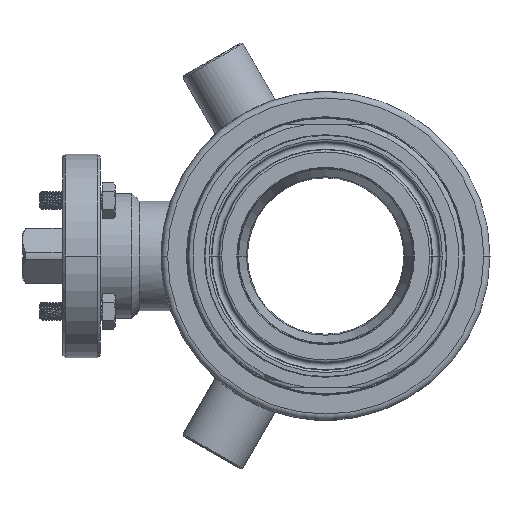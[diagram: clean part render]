
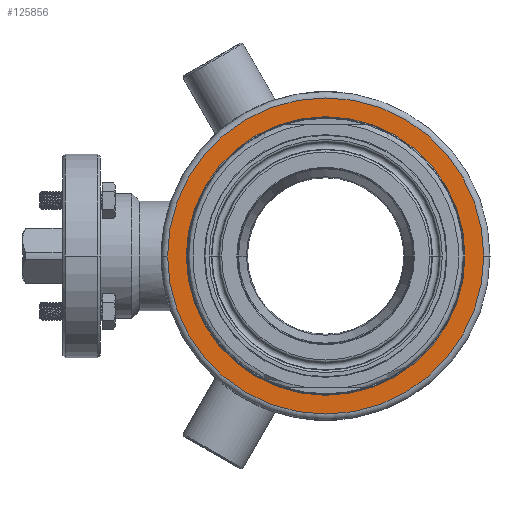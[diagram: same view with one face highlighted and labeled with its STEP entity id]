
A CAD part, left-side view. The second image highlights one B-rep face of the part: STEP entity #125856.
In plain terms, the highlighted planar face has unit normal (-1, 0, 0).
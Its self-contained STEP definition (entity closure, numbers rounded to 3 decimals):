
#56803=CARTESIAN_POINT('',(-32.,0.,0.));
#56804=DIRECTION('',(-1.,0.,0.));
#56805=DIRECTION('',(0.,-1.,0.));
#56806=AXIS2_PLACEMENT_3D('',#56803,#56804,#56805);
#56811=CARTESIAN_POINT('',(-32.,0.,0.));
#56812=DIRECTION('',(-1.,0.,0.));
#56813=DIRECTION('',(0.,1.,0.));
#56814=AXIS2_PLACEMENT_3D('',#56811,#56812,#56813);
#56827=CARTESIAN_POINT('',(-32.,0.,0.));
#56828=DIRECTION('',(-1.,0.,0.));
#56829=DIRECTION('',(0.,0.,1.));
#56830=AXIS2_PLACEMENT_3D('',#56827,#56828,#56829);
#56843=CARTESIAN_POINT('',(-32.,0.,0.));
#56844=DIRECTION('',(-1.,0.,0.));
#56845=DIRECTION('',(0.,0.,-1.));
#56846=AXIS2_PLACEMENT_3D('',#56843,#56844,#56845);
#79877=CARTESIAN_POINT('',(-32.,-50.5,0.));
#79878=CARTESIAN_POINT('',(-32.,50.5,0.));
#79879=VERTEX_POINT('',#79877);
#79880=VERTEX_POINT('',#79878);
#80306=CARTESIAN_POINT('',(-32.,0.,44.5));
#80307=CARTESIAN_POINT('',(-32.,0.,-44.5));
#80308=VERTEX_POINT('',#80306);
#80309=VERTEX_POINT('',#80307);
#125840=CARTESIAN_POINT('',(-32.,0.,0.));
#125841=DIRECTION('',(-1.,0.,0.));
#125842=DIRECTION('',(0.,1.,0.));
#125843=AXIS2_PLACEMENT_3D('',#125840,#125841,#125842);
#125844=PLANE('',#125843);
#125846=ORIENTED_EDGE('',*,*,#125845,.F.);
#125847=ORIENTED_EDGE('',*,*,#125830,.F.);
#125848=EDGE_LOOP('',(#125846,#125847));
#125849=FACE_OUTER_BOUND('',#125848,.F.);
#125851=ORIENTED_EDGE('',*,*,#125850,.T.);
#125853=ORIENTED_EDGE('',*,*,#125852,.T.);
#125854=EDGE_LOOP('',(#125851,#125853));
#125855=FACE_BOUND('',#125854,.F.);
#125856=ADVANCED_FACE('',(#125849,#125855),#125844,.T.);
#56807=CIRCLE('',#56806,50.5);
#56815=CIRCLE('',#56814,50.5);
#56831=CIRCLE('',#56830,44.5);
#56847=CIRCLE('',#56846,44.5);
#125830=EDGE_CURVE('',#79880,#79879,#56815,.T.);
#125845=EDGE_CURVE('',#79879,#79880,#56807,.T.);
#125850=EDGE_CURVE('',#80308,#80309,#56831,.T.);
#125852=EDGE_CURVE('',#80309,#80308,#56847,.T.);
